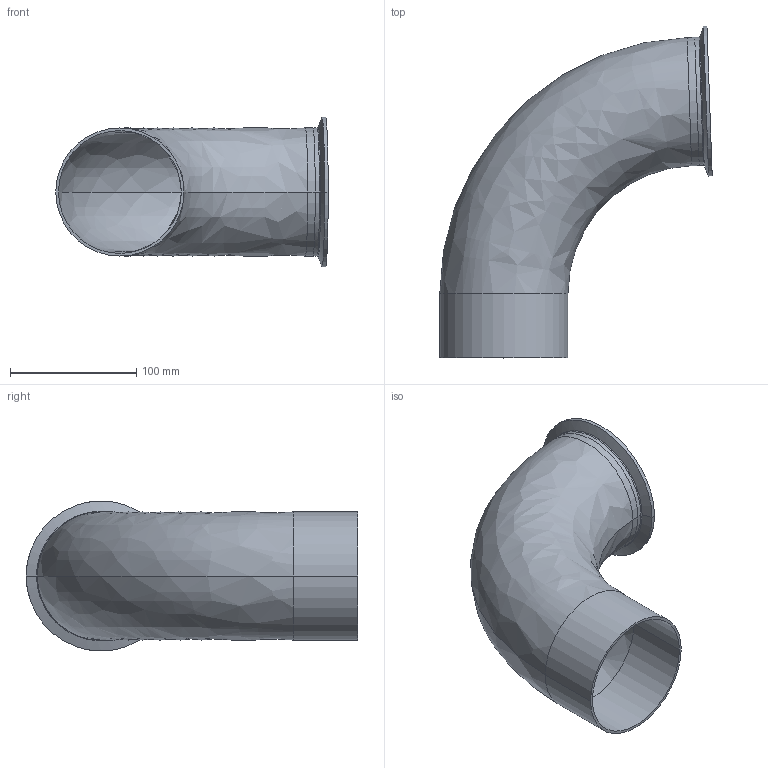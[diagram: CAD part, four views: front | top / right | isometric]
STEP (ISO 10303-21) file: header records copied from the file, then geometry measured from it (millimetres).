
FILE_DESCRIPTION (( 'STEP AP214' ), '1' );
FILE_NAME ('TE2C886L4.0-...STEP', '2016-05-22T08:32:39', ( 'eran' ), ( '' ), 'SwSTEP 2.0', 'SolidWorks 2016', '' );
FILE_SCHEMA (( 'AUTOMOTIVE_DESIGN' ));
Length unit declared in the file: millimetre
Products named in the file (1): TE2C886L4.0-..
Bounding box: 215.95 x 263.14 x 118.92 mm (x, y, z)
Volume: 211145.2 mm3; surface area: 196169.7 mm2
Topology: 2 solids, 2 shells, 39 faces, 92 edges, 58 vertices
Faces by surface type: bspline 14, cylinder 14, cone 6, plane 5
Entity records: 1885 total; most frequent: CARTESIAN_POINT 942, DIRECTION 204, ORIENTED_EDGE 184, EDGE_CURVE 92, AXIS2_PLACEMENT_3D 92, CIRCLE 66, VERTEX_POINT 58, EDGE_LOOP 44
